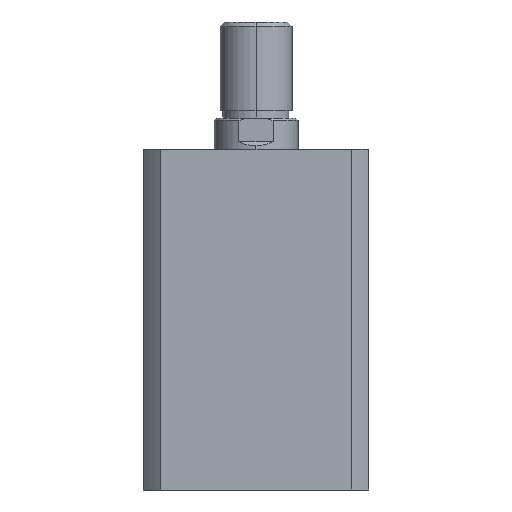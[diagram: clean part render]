
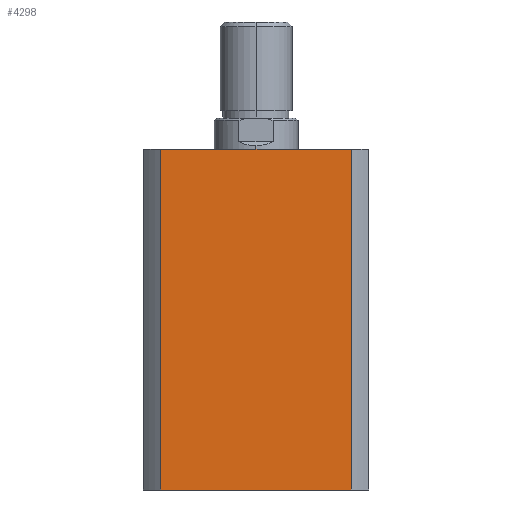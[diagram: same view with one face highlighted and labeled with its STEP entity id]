
A CAD part, left-side view. The second image highlights one B-rep face of the part: STEP entity #4298.
In plain terms, the highlighted planar face has unit normal (-1, 0, 0).
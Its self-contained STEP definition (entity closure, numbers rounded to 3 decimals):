
#833 = AXIS2_PLACEMENT_3D ( 'NONE', #1929, #1937, #1938 ) ;
#1130 = CARTESIAN_POINT ( 'NONE',  ( -47., 39.664, 142. ) ) ;
#1131 = CARTESIAN_POINT ( 'NONE',  ( -47., -39.664, 142. ) ) ;
#1150 = CARTESIAN_POINT ( 'NONE',  ( -47., 39.664, 0. ) ) ;
#1151 = CARTESIAN_POINT ( 'NONE',  ( -47., -39.664, 0. ) ) ;
#1725 = VERTEX_POINT ( 'NONE', #1130 ) ;
#1726 = VERTEX_POINT ( 'NONE', #1131 ) ;
#1745 = VERTEX_POINT ( 'NONE', #1150 ) ;
#1746 = VERTEX_POINT ( 'NONE', #1151 ) ;
#1929 = CARTESIAN_POINT ( 'NONE',  ( -47., 0., 142. ) ) ;
#1934 = PLANE ( 'NONE',  #833 ) ;
#1937 = DIRECTION ( 'NONE',  ( 1., 0., 0. ) ) ;
#1938 = DIRECTION ( 'NONE',  ( 0., 0., -1. ) ) ;
#2283 = EDGE_LOOP ( 'NONE', ( #2829, #2828, #2827, #2826 ) ) ;
#2826 = ORIENTED_EDGE ( 'NONE', *, *, #5126, .T. ) ;
#2827 = ORIENTED_EDGE ( 'NONE', *, *, #5093, .F. ) ;
#2828 = ORIENTED_EDGE ( 'NONE', *, *, #5128, .F. ) ;
#2829 = ORIENTED_EDGE ( 'NONE', *, *, #5127, .T. ) ;
#3496 = DIRECTION ( 'NONE',  ( 0., -1., 0. ) ) ;
#3503 = CARTESIAN_POINT ( 'NONE',  ( -47., 0., 142. ) ) ;
#3670 = DIRECTION ( 'NONE',  ( 0., 0., -1. ) ) ;
#3677 = CARTESIAN_POINT ( 'NONE',  ( -47., 39.664, 142. ) ) ;
#3679 = CARTESIAN_POINT ( 'NONE',  ( -47., 0., 0. ) ) ;
#3684 = DIRECTION ( 'NONE',  ( 0., -1., 0. ) ) ;
#3685 = CARTESIAN_POINT ( 'NONE',  ( -47., -39.664, 142. ) ) ;
#3687 = DIRECTION ( 'NONE',  ( 0., 0., -1. ) ) ;
#4140 = FACE_OUTER_BOUND ( 'NONE', #2283, .T. ) ;
#4298 = ADVANCED_FACE ( 'NONE', ( #4140 ), #1934, .F. ) ;
#4687 = LINE ( 'NONE', #3503, #4689 ) ;
#4689 = VECTOR ( 'NONE', #3496, 1000. ) ;
#4727 = LINE ( 'NONE', #3679, #4733 ) ;
#4729 = LINE ( 'NONE', #3677, #4731 ) ;
#4731 = VECTOR ( 'NONE', #3670, 1000. ) ;
#4732 = LINE ( 'NONE', #3685, #4735 ) ;
#4733 = VECTOR ( 'NONE', #3684, 1000. ) ;
#4735 = VECTOR ( 'NONE', #3687, 1000. ) ;
#5093 = EDGE_CURVE ( 'NONE', #1725, #1726, #4687, .T. ) ;
#5126 = EDGE_CURVE ( 'NONE', #1725, #1745, #4729, .T. ) ;
#5127 = EDGE_CURVE ( 'NONE', #1745, #1746, #4727, .T. ) ;
#5128 = EDGE_CURVE ( 'NONE', #1726, #1746, #4732, .T. ) ;
